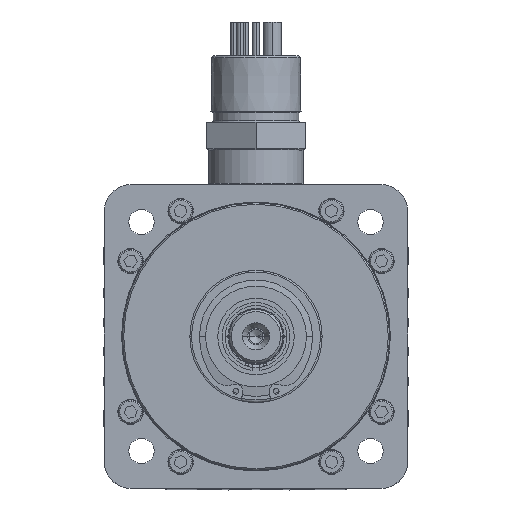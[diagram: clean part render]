
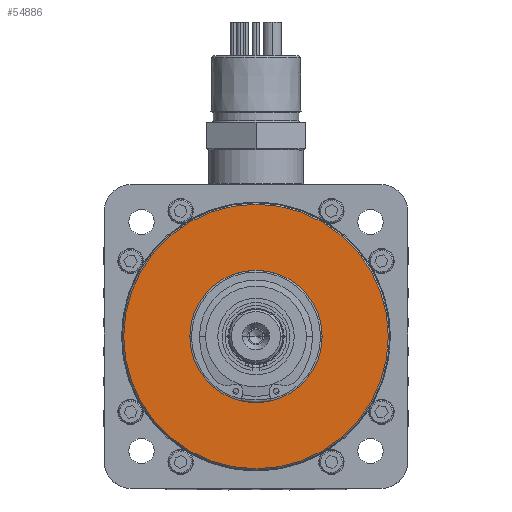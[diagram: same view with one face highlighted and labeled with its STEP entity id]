
A CAD part, top view. The second image highlights one B-rep face of the part: STEP entity #54886.
In plain terms, the highlighted planar face has unit normal (0, 0, 1).
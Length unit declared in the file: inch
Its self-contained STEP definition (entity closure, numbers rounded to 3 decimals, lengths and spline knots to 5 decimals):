
#4315 = VERTEX_POINT ( 'NONE', #7750 ) ;
#4316 = VERTEX_POINT ( 'NONE', #7749 ) ;
#4468 = EDGE_CURVE ( 'NONE', #4315, #4316, #7787, .T. ) ;
#7749 = CARTESIAN_POINT ( 'NONE',  ( -1.8501, 0., 0. ) ) ;
#7750 = CARTESIAN_POINT ( 'NONE',  ( 1.8501, 0., 0. ) ) ;
#7783 = DIRECTION ( 'NONE',  ( 1., 0., 0. ) ) ;
#7784 = DIRECTION ( 'NONE',  ( 0., 0., 1. ) ) ;
#7785 = CARTESIAN_POINT ( 'NONE',  ( 0., 0., 0. ) ) ;
#7786 = AXIS2_PLACEMENT_3D ( 'NONE', #7785, #7784, #7783 ) ;
#7787 = CIRCLE ( 'NONE', #7786, 1.8501 ) ;
#19102 = PLANE ( 'NONE',  #19142 ) ;
#19103 = FACE_BOUND ( 'NONE', #54896, .T. ) ;
#19104 = FACE_OUTER_BOUND ( 'NONE', #54887, .T. ) ;
#19105 = DIRECTION ( 'NONE',  ( 1., 0., 0. ) ) ;
#19106 = DIRECTION ( 'NONE',  ( 0., 0., 1. ) ) ;
#19107 = CARTESIAN_POINT ( 'NONE',  ( 0., 0., 0. ) ) ;
#19108 = AXIS2_PLACEMENT_3D ( 'NONE', #19107, #19106, #19105 ) ;
#19109 = CIRCLE ( 'NONE', #19108, 0.9254 ) ;
#19134 = DIRECTION ( 'NONE',  ( 1., 0., 0. ) ) ;
#19135 = DIRECTION ( 'NONE',  ( 0., 0., 1. ) ) ;
#19136 = CARTESIAN_POINT ( 'NONE',  ( 0., 0., 0. ) ) ;
#19137 = AXIS2_PLACEMENT_3D ( 'NONE', #19136, #19135, #19134 ) ;
#19138 = CIRCLE ( 'NONE', #19137, 1.8501 ) ;
#19139 = DIRECTION ( 'NONE',  ( 1., 0., 0. ) ) ;
#19140 = DIRECTION ( 'NONE',  ( 0., 0., 1. ) ) ;
#19141 = CARTESIAN_POINT ( 'NONE',  ( 0., 0.9254, 0. ) ) ;
#19142 = AXIS2_PLACEMENT_3D ( 'NONE', #19141, #19140, #19139 ) ;
#24046 = CARTESIAN_POINT ( 'NONE',  ( 0.9254, 0., 0. ) ) ;
#24047 = DIRECTION ( 'NONE',  ( 1., 0., 0. ) ) ;
#24048 = DIRECTION ( 'NONE',  ( 0., 0., 1. ) ) ;
#24049 = CARTESIAN_POINT ( 'NONE',  ( 0., 0., 0. ) ) ;
#24050 = AXIS2_PLACEMENT_3D ( 'NONE', #24049, #24048, #24047 ) ;
#24051 = CIRCLE ( 'NONE', #24050, 0.9254 ) ;
#24052 = CARTESIAN_POINT ( 'NONE',  ( -0.9254, 0., 0. ) ) ;
#52811 = VERTEX_POINT ( 'NONE', #24052 ) ;
#52817 = EDGE_CURVE ( 'NONE', #52811, #52818, #24051, .T. ) ;
#52818 = VERTEX_POINT ( 'NONE', #24046 ) ;
#54885 = EDGE_CURVE ( 'NONE', #52818, #52811, #19109, .T. ) ;
#54886 = ADVANCED_FACE ( 'NONE', ( #19104, #19103 ), #19102, .T. ) ;
#54887 = EDGE_LOOP ( 'NONE', ( #54889, #54895 ) ) ;
#54889 = ORIENTED_EDGE ( 'NONE', *, *, #54891, .T. ) ;
#54891 = EDGE_CURVE ( 'NONE', #4316, #4315, #19138, .T. ) ;
#54895 = ORIENTED_EDGE ( 'NONE', *, *, #4468, .T. ) ;
#54896 = EDGE_LOOP ( 'NONE', ( #54899, #54902 ) ) ;
#54899 = ORIENTED_EDGE ( 'NONE', *, *, #54885, .F. ) ;
#54902 = ORIENTED_EDGE ( 'NONE', *, *, #52817, .F. ) ;
